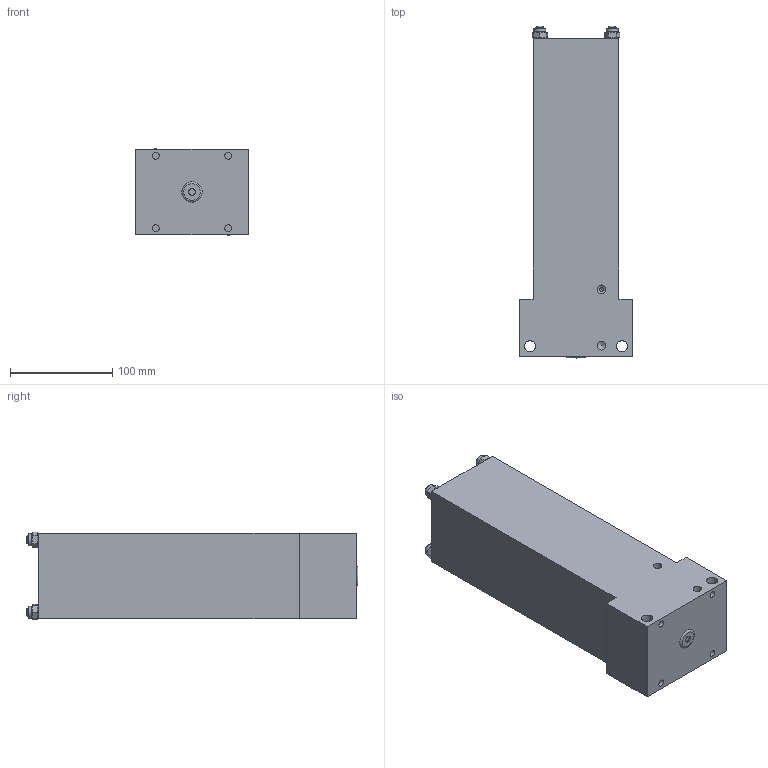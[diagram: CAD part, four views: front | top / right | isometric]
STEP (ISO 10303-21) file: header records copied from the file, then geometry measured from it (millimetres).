
FILE_DESCRIPTION((''),'2;1');
FILE_NAME('C:\VaultWork\Zeichnungen\Maßblätter\Multizylinder\M 75\M75-30\M01786-4-0 Maßblatt Multizylinder M75-6-30 mit zweiter Grundzelle.stp','2013-06-17T11:22:17',('Sergeew'),(''),'Autodesk Inventor 2012','Autodesk Inventor 2012','');
FILE_SCHEMA(('AUTOMOTIVE_DESIGN { 1 0 10303 214 1 1 1 1 }'));
Length unit declared in the file: millimetre
Products named in the file (1): M01786-4-0 Maßblatt Multizylinder M75-6-30 mit zweiter Grundzelle
Bounding box: 110 x 324.5 x 85.72 mm (x, y, z)
Volume: 2295857.7 mm3; surface area: 140657.8 mm2
Topology: 1 solids, 5 shells, 112 faces, 245 edges, 162 vertices
Faces by surface type: plane 61, cylinder 27, cone 23, torus 1
Full cylindrical faces by diameter (mm): 4 x1, 6.647 x5, 8 x8, 8.566 x3, 9 x4, 11 x2, 11.6 x4
Entity records: 2661 total; most frequent: CARTESIAN_POINT 513, DIRECTION 418, ORIENTED_EDGE 336, EDGE_LOOP 186, AXIS2_PLACEMENT_3D 185, EDGE_CURVE 168, VERTEX_POINT 136, FACE_OUTER_BOUND 112
